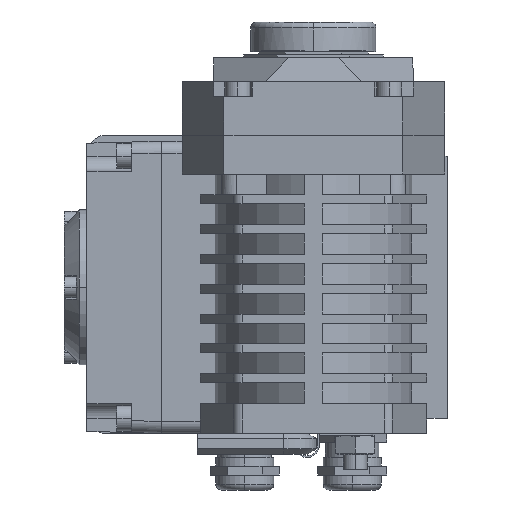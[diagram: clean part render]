
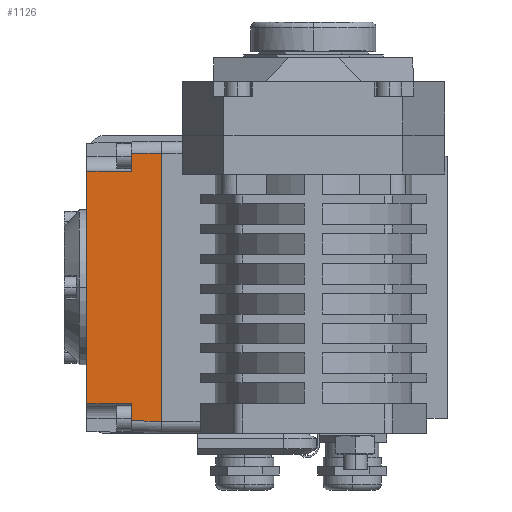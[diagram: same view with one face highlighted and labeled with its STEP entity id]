
A CAD part, left-side view. The second image highlights one B-rep face of the part: STEP entity #1126.
In plain terms, the highlighted planar face has unit normal (-1, 0.026, 0).
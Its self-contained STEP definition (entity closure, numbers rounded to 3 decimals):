
#7=CARTESIAN_POINT('',(-66.,0.,45.001));
#37=CARTESIAN_POINT('',(-66.,0.,-45.001));
#45=DIRECTION('',(0.,0.,1.));
#46=VECTOR('',#45,90.003);
#47=CARTESIAN_POINT('',(-66.,0.,-45.001));
#48=LINE('',#47,#46);
#184=DIRECTION('',(0.,0.,1.));
#185=VECTOR('',#184,78.);
#186=CARTESIAN_POINT('',(-65.345,25.,-39.));
#187=LINE('',#186,#185);
#251=DIRECTION('',(0.,0.,1.));
#252=VECTOR('',#251,5.74);
#253=CARTESIAN_POINT('',(-65.738,10.,-44.74));
#254=LINE('',#253,#252);
#255=DIRECTION('',(-0.026,-1.,0.));
#256=VECTOR('',#255,15.005);
#257=CARTESIAN_POINT('',(-65.345,25.,-39.));
#258=LINE('',#257,#256);
#259=DIRECTION('',(-0.026,-1.,0.));
#260=VECTOR('',#259,15.005);
#261=CARTESIAN_POINT('',(-65.345,25.,39.));
#262=LINE('',#261,#260);
#263=DIRECTION('',(0.,0.,1.));
#264=VECTOR('',#263,5.74);
#265=CARTESIAN_POINT('',(-65.738,10.,39.));
#266=LINE('',#265,#264);
#267=DIRECTION('',(0.026,0.999,-0.026));
#268=VECTOR('',#267,10.007);
#269=CARTESIAN_POINT('',(-66.,0.,45.001));
#270=LINE('',#269,#268);
#271=DIRECTION('',(0.026,0.999,0.026));
#272=VECTOR('',#271,10.007);
#273=CARTESIAN_POINT('',(-66.,0.,-45.001));
#274=LINE('',#273,#272);
#652=VERTEX_POINT('',#7);
#655=VERTEX_POINT('',#37);
#675=CARTESIAN_POINT('',(-65.738,10.,-44.74));
#676=CARTESIAN_POINT('',(-65.738,10.,-39.));
#677=VERTEX_POINT('',#675);
#678=VERTEX_POINT('',#676);
#679=CARTESIAN_POINT('',(-65.738,10.,39.));
#680=CARTESIAN_POINT('',(-65.738,10.,44.74));
#681=VERTEX_POINT('',#679);
#682=VERTEX_POINT('',#680);
#695=CARTESIAN_POINT('',(-65.345,25.,-39.));
#696=CARTESIAN_POINT('',(-65.345,25.,39.));
#697=VERTEX_POINT('',#695);
#698=VERTEX_POINT('',#696);
#1109=CARTESIAN_POINT('',(-65.673,12.5,0.));
#1110=DIRECTION('',(-1.,0.026,0.));
#1111=DIRECTION('',(-0.026,-1.,0.));
#1112=AXIS2_PLACEMENT_3D('',#1109,#1110,#1111);
#1113=PLANE('',#1112);
#1114=ORIENTED_EDGE('',*,*,#907,.T.);
#1115=ORIENTED_EDGE('',*,*,#1102,.F.);
#1116=ORIENTED_EDGE('',*,*,#995,.T.);
#1118=ORIENTED_EDGE('',*,*,#1117,.T.);
#1119=ORIENTED_EDGE('',*,*,#919,.T.);
#1120=ORIENTED_EDGE('',*,*,#849,.F.);
#1121=ORIENTED_EDGE('',*,*,#834,.F.);
#1123=ORIENTED_EDGE('',*,*,#1122,.T.);
#1124=EDGE_LOOP('',(#1114,#1115,#1116,#1118,#1119,#1120,#1121,#1123));
#1125=FACE_OUTER_BOUND('',#1124,.F.);
#1126=ADVANCED_FACE('',(#1125),#1113,.T.);
#834=EDGE_CURVE('',#655,#652,#48,.T.);
#849=EDGE_CURVE('',#652,#682,#270,.T.);
#907=EDGE_CURVE('',#677,#678,#254,.T.);
#919=EDGE_CURVE('',#681,#682,#266,.T.);
#995=EDGE_CURVE('',#697,#698,#187,.T.);
#1102=EDGE_CURVE('',#697,#678,#258,.T.);
#1117=EDGE_CURVE('',#698,#681,#262,.T.);
#1122=EDGE_CURVE('',#655,#677,#274,.T.);
